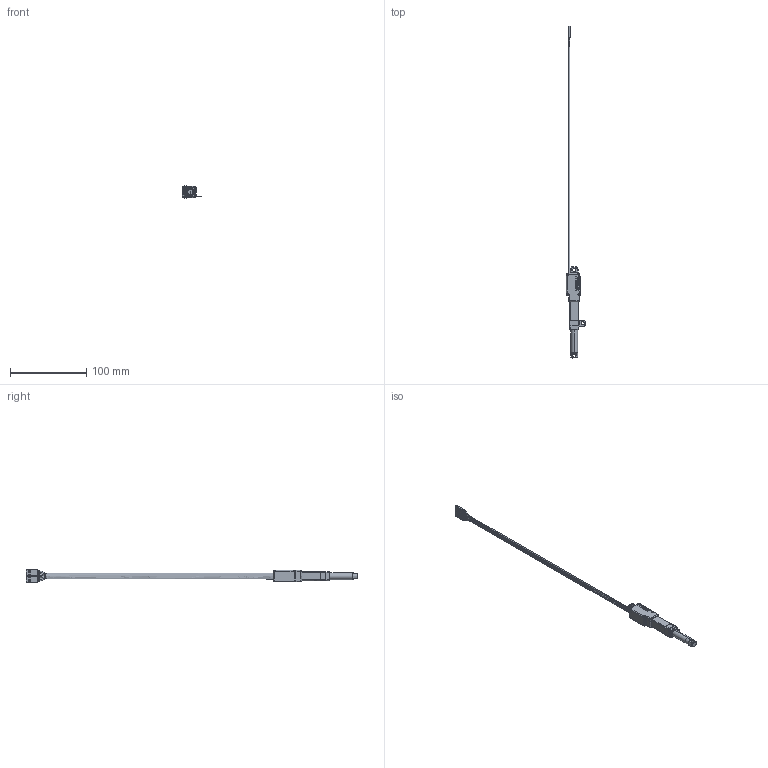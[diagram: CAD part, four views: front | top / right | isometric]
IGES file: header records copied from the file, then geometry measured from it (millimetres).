
Start section:  PTC IGES file: l12-30-i-ext.igs
Global section: file name: l12-30-i-ext.igs; native system: Pro/ENGINEER by Parametric Technology Corporation; preprocessor: 2004440; author: Mike Baker; organization: Unknown; date: 070504.092147; units: millimetre
Bounding box: 25.54 x 435.7 x 16.51 mm (x, y, z)
Volume: 10611.5 mm3; surface area: 19188.1 mm2
Topology: 5 solids, 5 shells, 1156 faces, 2856 edges, 1718 vertices
Faces by surface type: bspline 599, revolution 557
